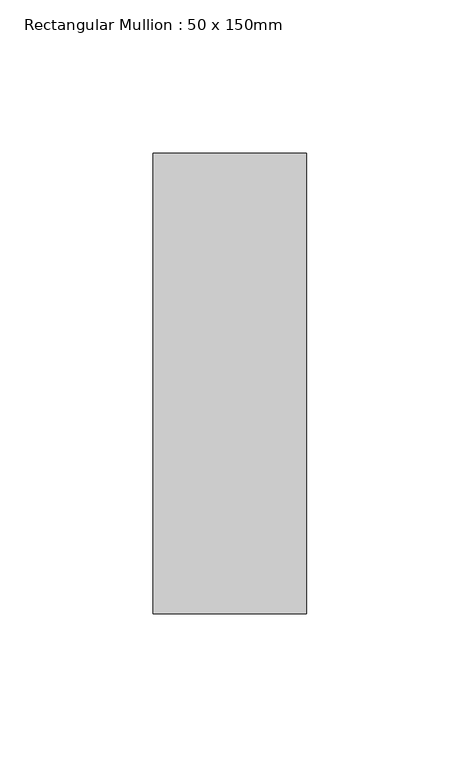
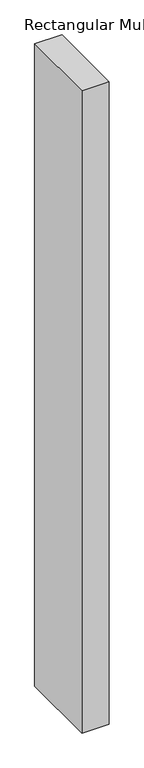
"""IFC4 building model written with IfcOpenShell, lengths in millimetres: member geometry, Rectangular Mullion : 50 x 150mm."""

from ifc_helpers import new_model, si_unit, frame, origin, place, context, project, spatial, polyline, outline, extrude, source, transform, mapped, element, save


def rectangular_mullion_50_x_150mm_a24dcaed(model_context):
    return source(origin(), model_context, "Body", "SweptSolid", [
        extrude(outline(polyline([(0.0, 75.0), (0.0, -75.0), (-50.0, -75.0), (-50.0, 75.0), (0.0, 75.0)])), frame((0.0, 0.0, -1244.625), z_axis=(0.0, 0.0, 1.0), x_axis=(1.0, 0.0, 0.0)), (0.0, 0.0, 1.0), 1244.625),
    ])


if __name__ == "__main__":
    model = new_model("IFC4")
    model_context = context("Model", 3, world=origin())
    ifc_project = project(units=[si_unit("LENGTHUNIT", "METRE", prefix="MILLI")], contexts=[model_context])
    site = spatial("IfcSite", under=ifc_project)
    building = spatial("IfcBuilding", under=site)
    placement = place(None, origin())
    rectangular_mullion_50_x_150mm_shape = rectangular_mullion_50_x_150mm_a24dcaed(model_context)
    element("IfcMember", 1, ObjectType="Rectangular Mullion : 50 x 150mm", at=placement, inside=building, context=model_context, shape_type="MappedRepresentation", body=[
        mapped(rectangular_mullion_50_x_150mm_shape, transform((0.0, 0.0, 0.0), x_axis=(1.0, 0.0, 0.0), y_axis=(0.0, 1.0, 0.0), z_axis=(0.0, 0.0, 1.0))),
    ])
    save(model, "model.ifc")
